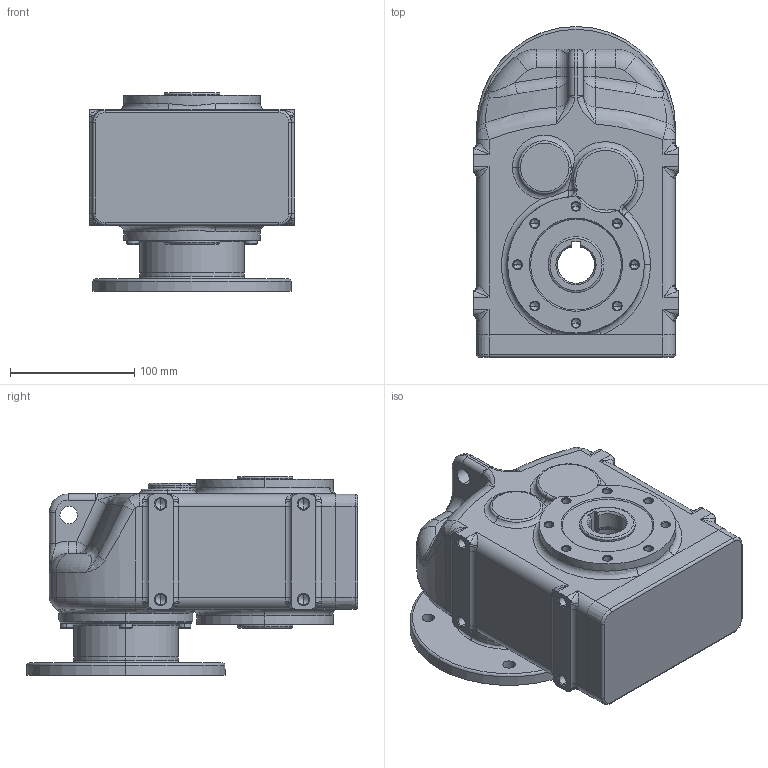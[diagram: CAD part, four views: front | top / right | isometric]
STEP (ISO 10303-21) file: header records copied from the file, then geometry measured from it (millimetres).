
FILE_DESCRIPTION (( 'STEP AP214' ), '1' );
FILE_NAME ('tnc12-f130-ap80.STEP', '2009-09-25T08:22:34', ( '' ), ( '' ), 'SwSTEP 2.0', 'SolidWorks 2003240', '' );
FILE_SCHEMA (( 'AUTOMOTIVE_DESIGN' ));
Length unit declared in the file: millimetre
Products named in the file (4): Pøíruba MRT80 kulatá _110-130-160; D6912_Šroub DIN 6912 - M6x20; Skøíò TNC1_Skøíò TNC12 AP80; tnc12-f130-ap80
Assembly tree (8 placements, depth 2):
  tnc12-f130-ap80
    D6912_Šroub DIN 6912 - M6x20  x6
    Skøíò TNC1_Skøíò TNC12 AP80
    Pøíruba MRT80 kulatá _110-130-160
Bounding box: 165 x 266.5 x 160 mm (x, y, z)
Volume: 3827841.5 mm3; surface area: 246442.7 mm2
Topology: 8 solids, 8 shells, 846 faces, 1887 edges, 1030 vertices
Faces by surface type: cylinder 245, cone 241, plane 163, torus 112, bspline 80, sphere 5
Entity records: 80622 total; most frequent: CARTESIAN_POINT 65028, DIRECTION 3330, ORIENTED_EDGE 2946, EDGE_CURVE 1473, AXIS2_PLACEMENT_3D 1408, VERTEX_POINT 875, CIRCLE 816, EDGE_LOOP 744
